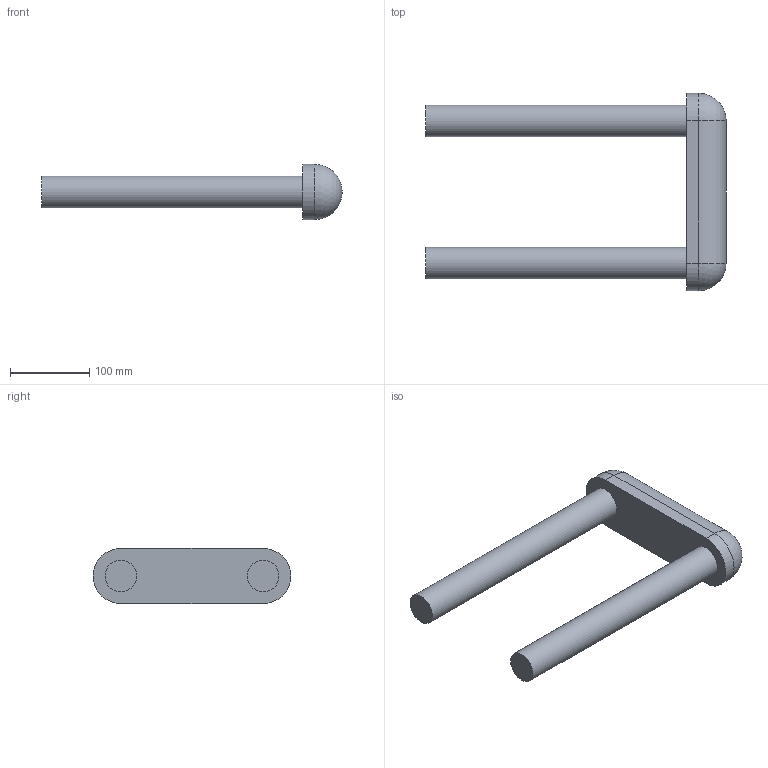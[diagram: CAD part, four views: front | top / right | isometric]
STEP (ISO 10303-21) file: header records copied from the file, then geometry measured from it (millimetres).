
FILE_DESCRIPTION(('STEP AP242'), '1');
FILE_NAME('婰膲僗闉', '', ('UNSPECIFIED'), ('UNSPECIFIED'), 'C3D Converter', 'C3D Toolkit', '');
FILE_SCHEMA(('AP242_MANAGED_MODEL_BASED_3D_ENGINEERING_MIM_LF { 1 0 10303 442 1 1 4 }'));
Length unit declared in the file: millimetre
Bounding box: 380 x 250 x 70 mm (x, y, z)
Volume: 1512265 mm3; surface area: 135574.1 mm2
Topology: 1 solids, 1 shells, 12 faces, 24 edges, 14 vertices
Faces by surface type: cylinder 5, plane 5, sphere 2
Full cylindrical faces by diameter (mm): 40 x2
Entity records: 332 total; most frequent: DIRECTION 58, CARTESIAN_POINT 47, ORIENTED_EDGE 40, AXIS2_PLACEMENT_3D 25, EDGE_CURVE 20, EDGE_LOOP 16, VERTEX_POINT 14, ADVANCED_FACE 12
